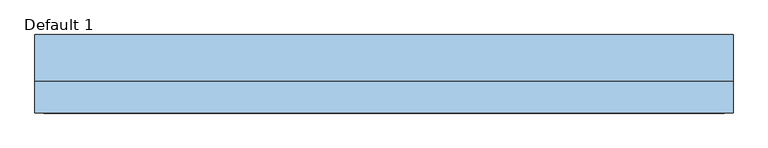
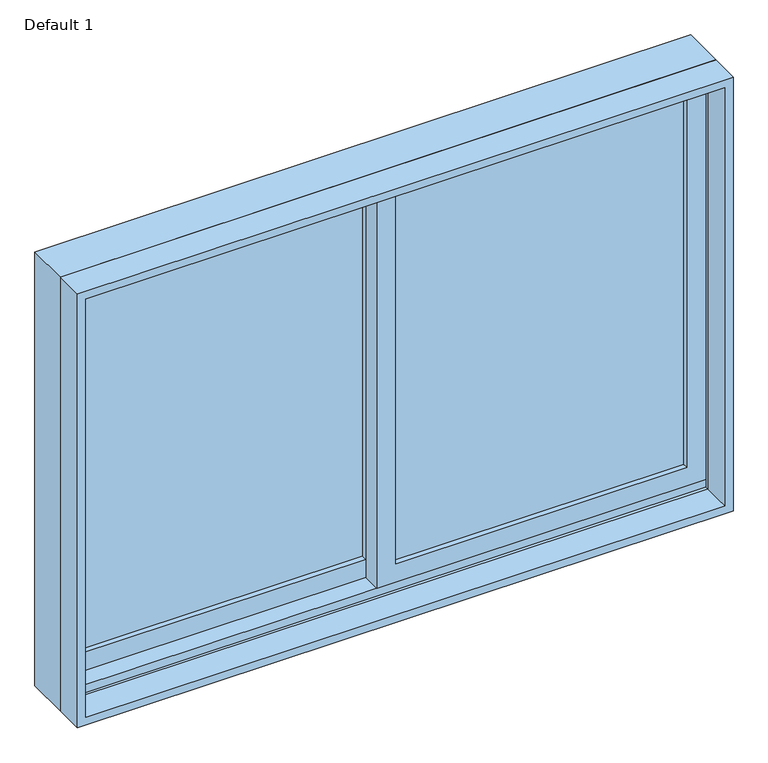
"""IFC4 building model written with IfcOpenShell, lengths in millimetres: window geometry, Planitar-Sliding-Double : Default 1."""

from ifc_helpers import new_model, si_unit, frame, origin, place, context, project, spatial, polyline, outline, extrude, faceted_brep, source, transform, mapped, element, save


def default_1_78747222(model_context):
    return source(origin(), model_context, "Body", "SolidModel", [
        extrude(outline(polyline([(933.45, -742.95), (933.45, 22.225), (1962.15, 22.225), (1962.15, -742.95), (933.45, -742.95)]), holes=[polyline([(1917.7, -22.225), (996.95, -22.225), (996.95, -698.5), (1917.7, -698.5), (1917.7, -22.225)])]), frame((0.0, 40.64, 0.0), z_axis=(0.0, 1.0, 0.0), x_axis=(0.0, 0.0, 1.0)), (0.0, 0.0, 1.0), 44.45),
        extrude(outline(polyline([(952.5, 742.95), (1962.15, 742.95), (1962.15, -22.225), (952.5, -22.225), (952.5, 742.95)]), holes=[polyline([(996.95, 22.225), (1917.7, 22.225), (1917.7, 698.5), (996.95, 698.5), (996.95, 22.225)])]), frame((0.0, -3.81, 0.0), z_axis=(0.0, 1.0, 0.0), x_axis=(0.0, 0.0, 1.0)), (0.0, 0.0, 1.0), 44.45),
        faceted_brep([(-762.0, -10.16, 914.4), (-762.0, 91.44, 914.4), (762.0, 91.44, 914.4), (762.0, -10.16, 914.4), (-721.0778905, 91.44, 1940.2778905), (-721.0778905, 85.09, 1940.2778905), (-721.0778905, 85.09, 933.45), (-721.0778905, 91.44, 933.45), (721.0778905, 85.09, 1940.2778905), (721.0778905, 85.09, 933.45), (742.95, 85.09, 933.45), (742.95, 85.09, 1962.15), (-742.95, 85.09, 1962.15), (-742.95, 85.09, 933.45), (-742.95, -10.16, 1962.15), (-742.95, -10.16, 933.45), (-742.95, -3.81, 933.45), (-742.95, -3.81, 952.5), (-742.95, 40.64, 952.5), (-742.95, 40.64, 933.45), (762.0, -10.16, 1981.2), (-762.0, -10.16, 1981.2), (742.95, -10.16, 1962.15), (742.95, -10.16, 933.45), (-762.0, 91.44, 1981.2), (762.0, 91.44, 1981.2), (721.0778905, 91.44, 933.45), (721.0778905, 91.44, 1940.2778905), (742.95, 40.64, 933.45), (742.95, 40.64, 952.5), (742.95, -3.81, 952.5), (742.95, -3.81, 933.45)], [[[0, 1, 2, 3]], [[4, 5, 6, 7]], [[5, 8, 9, 10, 11, 12, 13, 6]], [[12, 14, 15, 16, 17, 18, 19, 13]], [[0, 3, 20, 21], [22, 23, 15, 14]], [[24, 1, 0, 21]], [[2, 1, 24, 25], [4, 7, 26, 27]], [[5, 4, 27, 8]], [[12, 11, 22, 14]], [[21, 20, 25, 24]], [[8, 27, 26, 9]], [[22, 11, 10, 28, 29, 30, 31, 23]], [[20, 3, 2, 25]], [[26, 7, 6, 13, 19, 28, 10, 9]], [[28, 19, 18, 29]], [[29, 18, 17, 30]], [[30, 17, 16, 31]], [[15, 23, 31, 16]]]),
        extrude(outline(polyline([(1981.2, -762.0), (914.4, -762.0), (914.4, 762.0), (1981.2, 762.0), (1981.2, -762.0)]), holes=[polyline([(1962.15, 742.95), (933.45, 742.95), (933.45, -742.95), (1962.15, -742.95), (1962.15, 742.95)])]), frame((0.0, -80.01, 0.0), z_axis=(0.0, 1.0, 0.0), x_axis=(0.0, 0.0, 1.0)), (0.0, 0.0, 1.0), 69.85),
        extrude(outline(polyline([(698.5, 27.94), (698.5, 21.59), (22.225, 21.59), (22.225, 27.94), (698.5, 27.94)])), frame((0.0, 0.0, 996.95), z_axis=(0.0, 0.0, 1.0), x_axis=(1.0, 0.0, 0.0)), (0.0, 0.0, 1.0), 920.75),
        extrude(outline(polyline([(698.5, 15.24), (698.5, 8.89), (22.225, 8.89), (22.225, 15.24), (698.5, 15.24)])), frame((0.0, 0.0, 996.95), z_axis=(0.0, 0.0, 1.0), x_axis=(1.0, 0.0, 0.0)), (0.0, 0.0, 1.0), 920.75),
        extrude(outline(polyline([(-22.225, 72.39), (-22.225, 66.04), (-698.5, 66.04), (-698.5, 72.39), (-22.225, 72.39)])), frame((0.0, 0.0, 996.95), z_axis=(0.0, 0.0, 1.0), x_axis=(1.0, 0.0, 0.0)), (0.0, 0.0, 1.0), 920.75),
        extrude(outline(polyline([(-22.225, 59.69), (-22.225, 53.34), (-698.5, 53.34), (-698.5, 59.69), (-22.225, 59.69)])), frame((0.0, 0.0, 996.95), z_axis=(0.0, 0.0, 1.0), x_axis=(1.0, 0.0, 0.0)), (0.0, 0.0, 1.0), 920.75),
    ])


if __name__ == "__main__":
    model = new_model("IFC4")
    model_context = context("Model", 3, world=origin())
    ifc_project = project(units=[si_unit("LENGTHUNIT", "METRE", prefix="MILLI")], contexts=[model_context])
    site = spatial("IfcSite", under=ifc_project)
    building = spatial("IfcBuilding", under=site)
    placement = place(None, origin())
    default_1_shape = default_1_78747222(model_context)
    element("IfcWindow", 1, ObjectType="Planitar-Sliding-Double : Default 1", at=placement, inside=building, context=model_context, shape_type="MappedRepresentation", body=[
        mapped(default_1_shape, transform((0.0, 0.0, 0.0), x_axis=(1.0, 0.0, 0.0), y_axis=(0.0, 1.0, 0.0), z_axis=(0.0, 0.0, 1.0))),
    ])
    save(model, "model.ifc")
